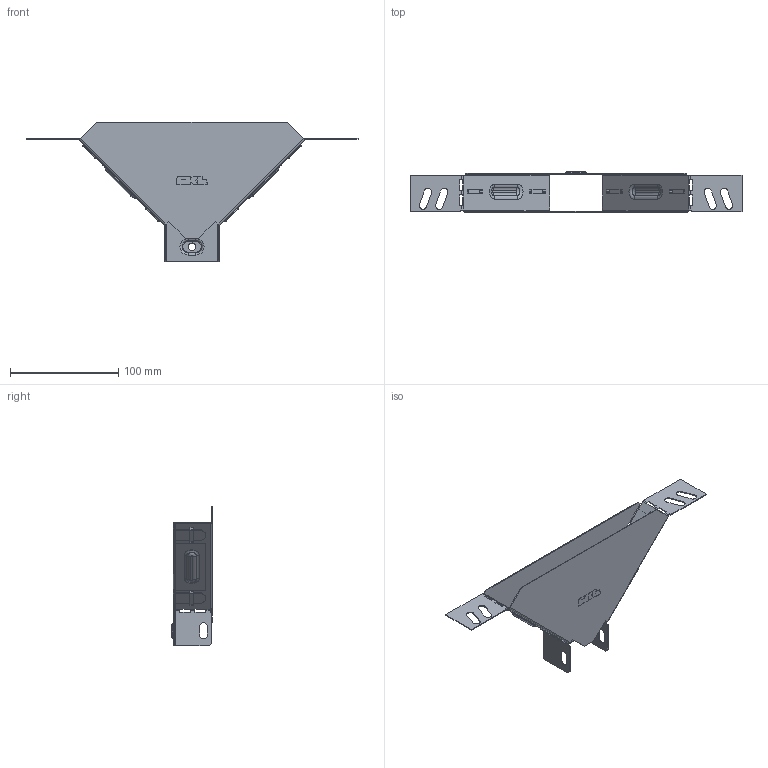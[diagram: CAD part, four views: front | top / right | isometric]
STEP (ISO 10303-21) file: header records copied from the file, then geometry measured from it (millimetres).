
FILE_DESCRIPTION (( 'STEP AP214' ), '1' );
FILE_NAME ('tn355008_捘.STEP', '2019-06-10T07:56:39', ( '砐錪賧瘔蠈錪 Windows' ), ( '' ), 'SwSTEP 2.0', 'SolidWorks 2018', '' );
FILE_SCHEMA (( 'AUTOMOTIVE_DESIGN' ));
Length unit declared in the file: millimetre
Products named in the file (1): tn355008_捘
Bounding box: 306.02 x 37.4 x 129 mm (x, y, z)
Volume: 34270.4 mm3; surface area: 87809.7 mm2
Topology: 2 solids, 2 shells, 530 faces, 1464 edges, 936 vertices
Faces by surface type: plane 328, cylinder 144, torus 40, bspline 18
Entity records: 17683 total; most frequent: CARTESIAN_POINT 3889, ORIENTED_EDGE 2928, DIRECTION 2802, EDGE_CURVE 1464, LINE 1080, VECTOR 1080, VERTEX_POINT 936, AXIS2_PLACEMENT_3D 861
